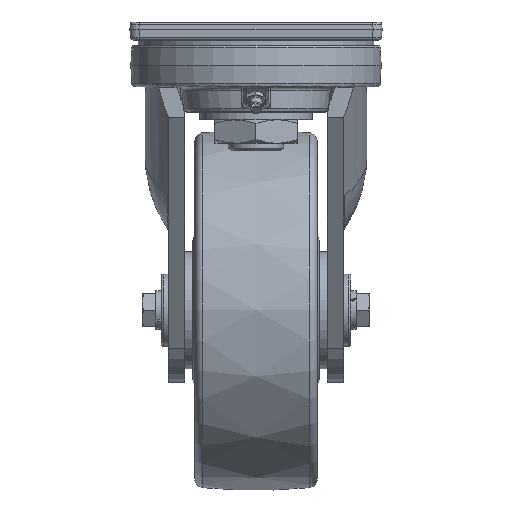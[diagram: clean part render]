
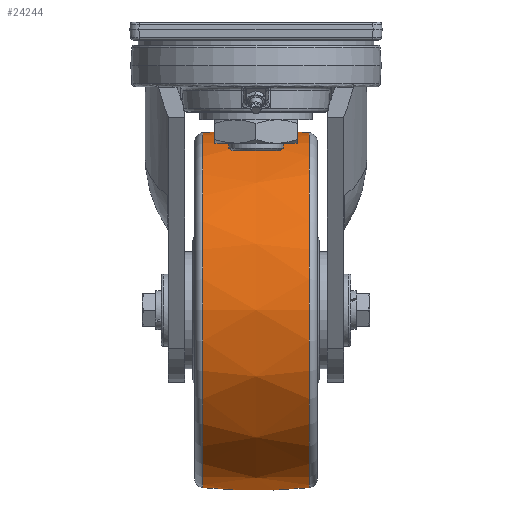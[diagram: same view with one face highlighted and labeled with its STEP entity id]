
A CAD part, left-side view. The second image highlights one B-rep face of the part: STEP entity #24244.
In plain terms, the highlighted free-form (B-spline) face has degree [2, 2] with [3, 9] control points.
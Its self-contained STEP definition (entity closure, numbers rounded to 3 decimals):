
#16=(
BOUNDED_SURFACE()
B_SPLINE_SURFACE(2,2,((#37156,#37157,#37158,#37159,#37160,#37161,#37162,
#37163,#37164),(#37165,#37166,#37167,#37168,#37169,#37170,#37171,#37172,
#37173),(#37174,#37175,#37176,#37177,#37178,#37179,#37180,#37181,#37182)),
 .UNSPECIFIED.,.F.,.T.,.F.)
B_SPLINE_SURFACE_WITH_KNOTS((3,3),(3,2,2,2,3),(-0.098,0.098),
(-3.142,-1.571,0.,1.571,3.142),
 .UNSPECIFIED.)
GEOMETRIC_REPRESENTATION_ITEM()
RATIONAL_B_SPLINE_SURFACE(((1.,0.707,1.,0.707,1.,
0.707,1.,0.707,1.),(0.995,0.704,
0.995,0.704,0.995,0.704,
0.995,0.704,0.995),(1.,0.707,
1.,0.707,1.,0.707,1.,0.707,1.)))
REPRESENTATION_ITEM('')
SURFACE()
);
#6948=FACE_OUTER_BOUND('',#8362,.T.);
#8362=EDGE_LOOP('',(#19088,#19089,#19090,#19091,#19092,#19093));
#9388=CIRCLE('',#25638,98.547);
#9389=CIRCLE('',#25639,98.547);
#9390=CIRCLE('',#25640,300.);
#9391=CIRCLE('',#25641,98.547);
#9392=CIRCLE('',#25642,98.547);
#10666=VERTEX_POINT('',#37151);
#10667=VERTEX_POINT('',#37153);
#10668=VERTEX_POINT('',#37183);
#10669=VERTEX_POINT('',#37185);
#13689=EDGE_CURVE('',#10666,#10667,#9388,.T.);
#13690=EDGE_CURVE('',#10667,#10666,#9389,.T.);
#13691=EDGE_CURVE('',#10666,#10668,#9390,.T.);
#13692=EDGE_CURVE('',#10668,#10669,#9391,.T.);
#13693=EDGE_CURVE('',#10669,#10668,#9392,.T.);
#19088=ORIENTED_EDGE('',*,*,#13690,.F.);
#19089=ORIENTED_EDGE('',*,*,#13689,.F.);
#19090=ORIENTED_EDGE('',*,*,#13691,.T.);
#19091=ORIENTED_EDGE('',*,*,#13692,.T.);
#19092=ORIENTED_EDGE('',*,*,#13693,.T.);
#19093=ORIENTED_EDGE('',*,*,#13691,.F.);
#24244=ADVANCED_FACE('',(#6948),#16,.F.);
#25638=AXIS2_PLACEMENT_3D('',#37154,#28443,#28444);
#25639=AXIS2_PLACEMENT_3D('',#37155,#28445,#28446);
#25640=AXIS2_PLACEMENT_3D('',#37184,#28447,#28448);
#25641=AXIS2_PLACEMENT_3D('',#37186,#28449,#28450);
#25642=AXIS2_PLACEMENT_3D('',#37187,#28451,#28452);
#28443=DIRECTION('center_axis',(0.,1.,0.));
#28444=DIRECTION('ref_axis',(0.,0.,
1.));
#28445=DIRECTION('center_axis',(0.,1.,0.));
#28446=DIRECTION('ref_axis',(0.,0.,
1.));
#28447=DIRECTION('center_axis',(-1.,0.,0.));
#28448=DIRECTION('ref_axis',(0.,0.,
-1.));
#28449=DIRECTION('center_axis',(0.,1.,0.));
#28450=DIRECTION('ref_axis',(0.,0.,
1.));
#28451=DIRECTION('center_axis',(0.,1.,0.));
#28452=DIRECTION('ref_axis',(0.,0.,
1.));
#37151=CARTESIAN_POINT('',(75.,29.492,-254.547));
#37153=CARTESIAN_POINT('',(173.547,29.492,-156.));
#37154=CARTESIAN_POINT('Origin',(75.,29.492,-156.));
#37155=CARTESIAN_POINT('Origin',(75.,29.492,-156.));
#37156=CARTESIAN_POINT('Ctrl Pts',(75.,-29.492,-254.547));
#37157=CARTESIAN_POINT('Ctrl Pts',(-23.547,-29.492,
-254.547));
#37158=CARTESIAN_POINT('Ctrl Pts',(-23.547,-29.492,
-156.));
#37159=CARTESIAN_POINT('Ctrl Pts',(-23.547,-29.492,
-57.453));
#37160=CARTESIAN_POINT('Ctrl Pts',(75.,-29.492,-57.453));
#37161=CARTESIAN_POINT('Ctrl Pts',(173.547,-29.492,-57.453));
#37162=CARTESIAN_POINT('Ctrl Pts',(173.547,-29.492,-156.));
#37163=CARTESIAN_POINT('Ctrl Pts',(173.547,-29.492,-254.547));
#37164=CARTESIAN_POINT('Ctrl Pts',(75.,-29.492,-254.547));
#37165=CARTESIAN_POINT('Ctrl Pts',(75.,0.,
-257.46));
#37166=CARTESIAN_POINT('Ctrl Pts',(-26.46,0.,
-257.46));
#37167=CARTESIAN_POINT('Ctrl Pts',(-26.46,0.,
-156.));
#37168=CARTESIAN_POINT('Ctrl Pts',(-26.46,0.,
-54.54));
#37169=CARTESIAN_POINT('Ctrl Pts',(75.,0.,
-54.54));
#37170=CARTESIAN_POINT('Ctrl Pts',(176.46,0.,
-54.54));
#37171=CARTESIAN_POINT('Ctrl Pts',(176.46,0.,
-156.));
#37172=CARTESIAN_POINT('Ctrl Pts',(176.46,0.,
-257.46));
#37173=CARTESIAN_POINT('Ctrl Pts',(75.,0.,
-257.46));
#37174=CARTESIAN_POINT('Ctrl Pts',(75.,29.492,-254.547));
#37175=CARTESIAN_POINT('Ctrl Pts',(-23.547,29.492,-254.547));
#37176=CARTESIAN_POINT('Ctrl Pts',(-23.547,29.492,-156.));
#37177=CARTESIAN_POINT('Ctrl Pts',(-23.547,29.492,-57.453));
#37178=CARTESIAN_POINT('Ctrl Pts',(75.,29.492,-57.453));
#37179=CARTESIAN_POINT('Ctrl Pts',(173.547,29.492,-57.453));
#37180=CARTESIAN_POINT('Ctrl Pts',(173.547,29.492,-156.));
#37181=CARTESIAN_POINT('Ctrl Pts',(173.547,29.492,-254.547));
#37182=CARTESIAN_POINT('Ctrl Pts',(75.,29.492,-254.547));
#37183=CARTESIAN_POINT('',(75.,-29.492,-254.547));
#37184=CARTESIAN_POINT('Origin',(75.,0.,
44.));
#37185=CARTESIAN_POINT('',(173.547,-29.492,-156.));
#37186=CARTESIAN_POINT('Origin',(75.,-29.492,-156.));
#37187=CARTESIAN_POINT('Origin',(75.,-29.492,-156.));
